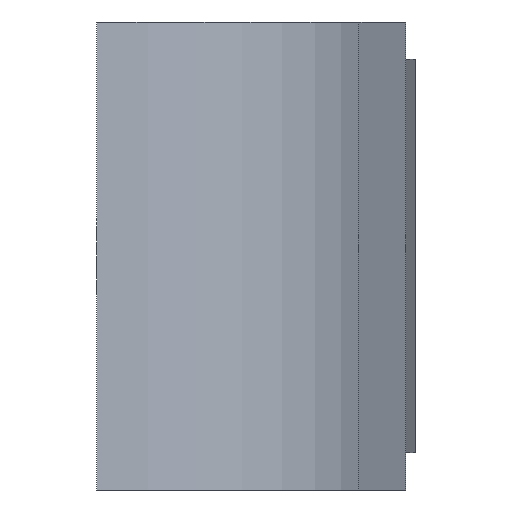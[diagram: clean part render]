
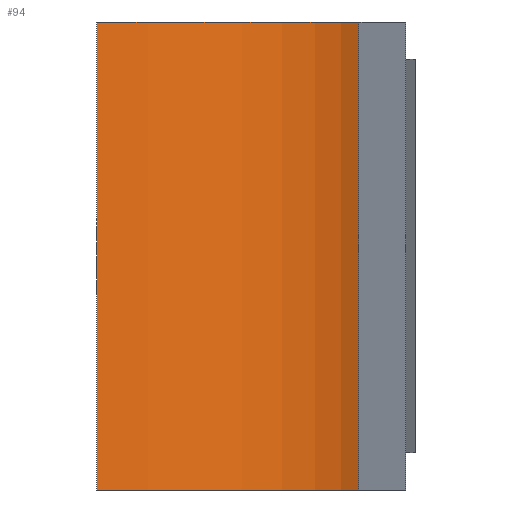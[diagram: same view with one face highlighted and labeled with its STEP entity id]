
A CAD part, left-side view. The second image highlights one B-rep face of the part: STEP entity #94.
In plain terms, the highlighted cylindrical face has radius 15.988 mm (diameter 31.976 mm), a partial arc.
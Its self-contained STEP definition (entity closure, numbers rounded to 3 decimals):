
#94 = ADVANCED_FACE( '', ( #140 ), #141, .T. );
#140 = FACE_OUTER_BOUND( '', #188, .T. );
#141 = CYLINDRICAL_SURFACE( '', #189, 15.988 );
#188 = EDGE_LOOP( '', ( #335, #336, #337, #338 ) );
#189 = AXIS2_PLACEMENT_3D( '', #339, #340, #341 );
#335 = ORIENTED_EDGE( '', *, *, #402, .T. );
#336 = ORIENTED_EDGE( '', *, *, #395, .F. );
#337 = ORIENTED_EDGE( '', *, *, #403, .F. );
#338 = ORIENTED_EDGE( '', *, *, #400, .T. );
#339 = CARTESIAN_POINT( '', ( 8.923, 1.434, 12.5 ) );
#340 = DIRECTION( '', ( 0., 0., 1. ) );
#341 = DIRECTION( '', ( -0.996, -0.09, 0. ) );
#395 = EDGE_CURVE( '', #469, #464, #471, .T. );
#400 = EDGE_CURVE( '', #479, #477, #480, .T. );
#402 = EDGE_CURVE( '', #477, #464, #482, .T. );
#403 = EDGE_CURVE( '', #479, #469, #483, .T. );
#464 = VERTEX_POINT( '', #566 );
#469 = VERTEX_POINT( '', #573 );
#471 = LINE( '', #576, #577 );
#477 = VERTEX_POINT( '', #586 );
#479 = VERTEX_POINT( '', #589 );
#480 = LINE( '', #590, #591 );
#482 = CIRCLE( '', #594, 15.988 );
#483 = CIRCLE( '', #595, 15.988 );
#566 = CARTESIAN_POINT( '', ( 4.75, -14., -12.5 ) );
#573 = CARTESIAN_POINT( '', ( 4.75, -14., 12.5 ) );
#576 = CARTESIAN_POINT( '', ( 4.75, -14., 12.5 ) );
#577 = VECTOR( '', #663, 1. );
#586 = CARTESIAN_POINT( '', ( -7., 0., -12.5 ) );
#589 = CARTESIAN_POINT( '', ( -7., 0., 12.5 ) );
#590 = CARTESIAN_POINT( '', ( -7., 0., 12.5 ) );
#591 = VECTOR( '', #668, 1. );
#594 = AXIS2_PLACEMENT_3D( '', #670, #671, #672 );
#595 = AXIS2_PLACEMENT_3D( '', #673, #674, #675 );
#663 = DIRECTION( '', ( 0., 0., -1. ) );
#668 = DIRECTION( '', ( 0., 0., -1. ) );
#670 = CARTESIAN_POINT( '', ( 8.923, 1.434, -12.5 ) );
#671 = DIRECTION( '', ( 0., 0., 1. ) );
#672 = DIRECTION( '', ( -0.996, -0.09, 0. ) );
#673 = CARTESIAN_POINT( '', ( 8.923, 1.434, 12.5 ) );
#674 = DIRECTION( '', ( 0., 0., 1. ) );
#675 = DIRECTION( '', ( -0.996, -0.09, 0. ) );
